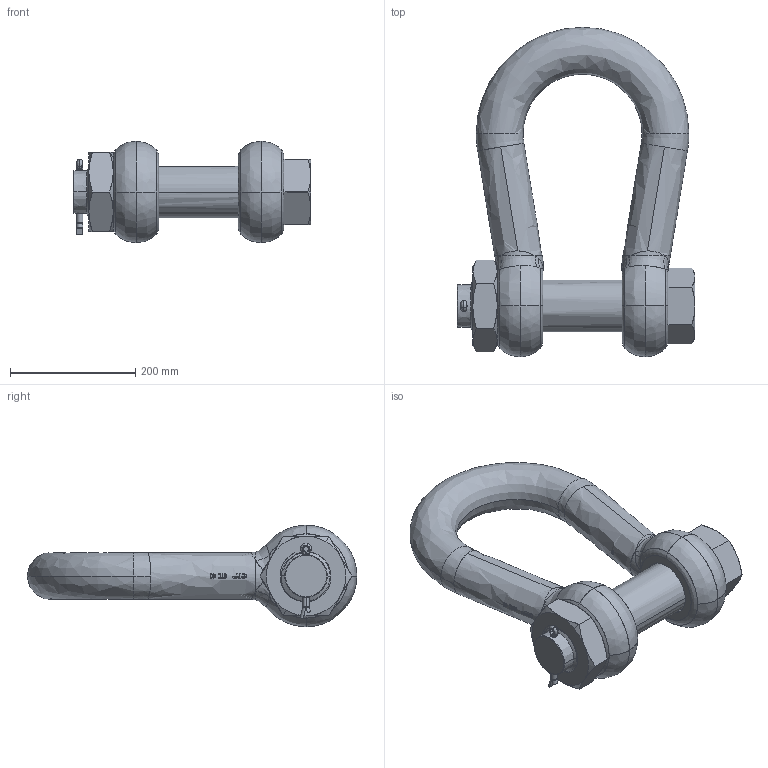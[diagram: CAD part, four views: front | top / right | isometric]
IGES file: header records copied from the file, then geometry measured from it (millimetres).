
Start section: START RECORD GO HERE.
Global section: file name: POGHMB75.igs; native system: Solidworks 2009                             ; preprocessor: Solidworks                 ; author: v.b.; organization: P4; date: 20090826.095539; units: millimetre
Bounding box: 380 x 526.5 x 162 mm (x, y, z)
Surface area: 517669.7 mm2 (no closed solid volume)
Topology: 0 solids, 0 shells, 811 faces, 6040 edges, 6040 vertices
Faces by surface type: bspline 388, plane 242, revolution 181
